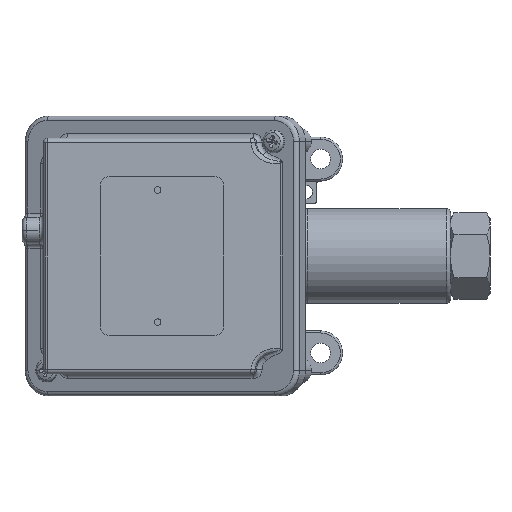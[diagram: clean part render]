
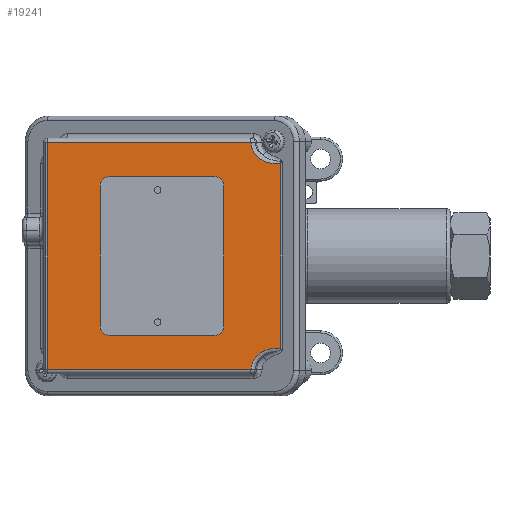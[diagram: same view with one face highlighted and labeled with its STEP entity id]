
A CAD part, left-side view. The second image highlights one B-rep face of the part: STEP entity #19241.
In plain terms, the highlighted planar face has unit normal (-1, 0.005, 0).
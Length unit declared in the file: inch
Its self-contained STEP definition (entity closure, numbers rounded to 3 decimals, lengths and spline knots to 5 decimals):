
#457 = CARTESIAN_POINT ( 'NONE',  ( -2.32276, 0.19397, 1.32146 ) ) ;
#1192 = AXIS2_PLACEMENT_3D ( 'NONE', #16506, #6571, #6963 ) ;
#1234 = VECTOR ( 'NONE', #17084, 39.37008 ) ;
#1374 = DIRECTION ( 'NONE',  ( -0.005, -1., 0. ) ) ;
#1430 = VERTEX_POINT ( 'NONE', #18806 ) ;
#1500 = PLANE ( 'NONE',  #4943 ) ;
#2020 =( BOUNDED_CURVE ( )  B_SPLINE_CURVE ( 3, ( #8943, #22600, #10478, #24140 ),
 .UNSPECIFIED., .F., .F. ) 
 B_SPLINE_CURVE_WITH_KNOTS ( ( 4, 4 ),
 ( 1.33072, 3.09357 ),
 .UNSPECIFIED. ) 
 CURVE ( )  GEOMETRIC_REPRESENTATION_ITEM ( )  RATIONAL_B_SPLINE_CURVE ( ( 1., 0.757, 0.757, 1. ) ) 
 REPRESENTATION_ITEM ( '' )  );
#2949 = ORIENTED_EDGE ( 'NONE', *, *, #15832, .F. ) ;
#3299 = FACE_OUTER_BOUND ( 'NONE', #15224, .T. ) ;
#4491 = VECTOR ( 'NONE', #5343, 39.37008 ) ;
#4833 = EDGE_CURVE ( 'NONE', #4859, #23437, #24670, .T. ) ;
#4859 = VERTEX_POINT ( 'NONE', #20941 ) ;
#4865 = CIRCLE ( 'NONE', #11856, 0.0465 ) ;
#4943 = AXIS2_PLACEMENT_3D ( 'NONE', #15040, #5473, #22861 ) ;
#5343 = DIRECTION ( 'NONE',  ( 0.005, 1., 0. ) ) ;
#5365 = CARTESIAN_POINT ( 'NONE',  ( -2.31341, 1.9849, -0.938 ) ) ;
#5473 = DIRECTION ( 'NONE',  ( 1., -0.005, 0. ) ) ;
#5591 = CARTESIAN_POINT ( 'NONE',  ( -2.32276, 0.19397, -1.32146 ) ) ;
#6278 = AXIS2_PLACEMENT_3D ( 'NONE', #20930, #19142, #1374 ) ;
#6280 = VERTEX_POINT ( 'NONE', #5365 ) ;
#6554 = ORIENTED_EDGE ( 'NONE', *, *, #20439, .T. ) ;
#6571 = DIRECTION ( 'NONE',  ( -1., 0.005, 0. ) ) ;
#6592 = EDGE_CURVE ( 'NONE', #21507, #6603, #2020, .T. ) ;
#6603 = VERTEX_POINT ( 'NONE', #22206 ) ;
#6753 = LINE ( 'NONE', #12386, #16407 ) ;
#6809 = ORIENTED_EDGE ( 'NONE', *, *, #19463, .T. ) ;
#6963 = DIRECTION ( 'NONE',  ( -0.005, -1., 0. ) ) ;
#7134 = LINE ( 'NONE', #7408, #1234 ) ;
#7287 = FACE_BOUND ( 'NONE', #18018, .T. ) ;
#7408 = CARTESIAN_POINT ( 'NONE',  ( -2.3055, 3.50088, 1.6725 ) ) ;
#7685 = CARTESIAN_POINT ( 'NONE',  ( -2.31341, 1.9849, 0.937 ) ) ;
#8662 = CARTESIAN_POINT ( 'NONE',  ( -2.3055, 3.50088, 1.61 ) ) ;
#8807 = EDGE_CURVE ( 'NONE', #1430, #6280, #11439, .T. ) ;
#8943 = CARTESIAN_POINT ( 'NONE',  ( -2.32276, 0.19397, 1.32146 ) ) ;
#9385 = EDGE_CURVE ( 'NONE', #6280, #1430, #17701, .T. ) ;
#9700 = ORIENTED_EDGE ( 'NONE', *, *, #4833, .F. ) ;
#10478 = CARTESIAN_POINT ( 'NONE',  ( -2.32063, 0.60182, 1.39798 ) ) ;
#11117 = CARTESIAN_POINT ( 'NONE',  ( -2.31365, 1.9384, 0.937 ) ) ;
#11439 = CIRCLE ( 'NONE', #1192, 0.0465 ) ;
#11555 = CARTESIAN_POINT ( 'NONE',  ( -2.32276, 0.19397, -1.32146 ) ) ;
#11856 = AXIS2_PLACEMENT_3D ( 'NONE', #13731, #21524, #25011 ) ;
#12386 = CARTESIAN_POINT ( 'NONE',  ( -2.32276, 0.19397, 1.6725 ) ) ;
#13086 = VERTEX_POINT ( 'NONE', #13258 ) ;
#13258 = CARTESIAN_POINT ( 'NONE',  ( -2.3055, 3.50088, -1.61 ) ) ;
#13456 = CARTESIAN_POINT ( 'NONE',  ( -2.32159, 0.41746, -1.27099 ) ) ;
#13543 = CARTESIAN_POINT ( 'NONE',  ( -2.32057, 0.61286, -1.61 ) ) ;
#13731 = CARTESIAN_POINT ( 'NONE',  ( -2.31365, 1.9384, 0.937 ) ) ;
#13970 = VERTEX_POINT ( 'NONE', #5591 ) ;
#14219 = ORIENTED_EDGE ( 'NONE', *, *, #9385, .F. ) ;
#14518 = ORIENTED_EDGE ( 'NONE', *, *, #16354, .T. ) ;
#14649 = VERTEX_POINT ( 'NONE', #8662 ) ;
#15040 = CARTESIAN_POINT ( 'NONE',  ( -2.32282, 0.18143, 1.6725 ) ) ;
#15091 = CARTESIAN_POINT ( 'NONE',  ( -2.32057, 0.61286, -1.61 ) ) ;
#15224 = EDGE_LOOP ( 'NONE', ( #24925, #6809, #17144, #6554, #19473, #14518 ) ) ;
#15832 = EDGE_CURVE ( 'NONE', #23437, #4859, #4865, .T. ) ;
#15980 = VECTOR ( 'NONE', #18808, 39.37008 ) ;
#16305 = DIRECTION ( 'NONE',  ( 0., 0., 1. ) ) ;
#16354 = EDGE_CURVE ( 'NONE', #6603, #14649, #20524, .T. ) ;
#16407 = VECTOR ( 'NONE', #16305, 39.37008 ) ;
#16506 = CARTESIAN_POINT ( 'NONE',  ( -2.31365, 1.9384, -0.938 ) ) ;
#16555 = CARTESIAN_POINT ( 'NONE',  ( -2.32282, 0.18143, 1.61 ) ) ;
#16702 = DIRECTION ( 'NONE',  ( -0.005, -1., 0. ) ) ;
#16808 = EDGE_CURVE ( 'NONE', #14649, #13086, #7134, .T. ) ;
#16888 = AXIS2_PLACEMENT_3D ( 'NONE', #11117, #17103, #16702 ) ;
#17084 = DIRECTION ( 'NONE',  ( 0., 0., -1. ) ) ;
#17103 = DIRECTION ( 'NONE',  ( -1., 0.005, 0. ) ) ;
#17144 = ORIENTED_EDGE ( 'NONE', *, *, #18462, .T. ) ;
#17417 = VERTEX_POINT ( 'NONE', #13543 ) ;
#17701 = CIRCLE ( 'NONE', #6278, 0.0465 ) ;
#18018 = EDGE_LOOP ( 'NONE', ( #9700, #2949 ) ) ;
#18462 = EDGE_CURVE ( 'NONE', #17417, #13970, #23301, .T. ) ;
#18683 = LINE ( 'NONE', #20350, #15980 ) ;
#18806 = CARTESIAN_POINT ( 'NONE',  ( -2.31389, 1.8919, -0.938 ) ) ;
#18808 = DIRECTION ( 'NONE',  ( -0.005, -1., 0. ) ) ;
#19142 = DIRECTION ( 'NONE',  ( -1., 0.005, 0. ) ) ;
#19241 = ADVANCED_FACE ( 'NONE', ( #7287, #20790, #3299 ), #1500, .F. ) ;
#19463 = EDGE_CURVE ( 'NONE', #13086, #17417, #18683, .T. ) ;
#19473 = ORIENTED_EDGE ( 'NONE', *, *, #6592, .T. ) ;
#20350 = CARTESIAN_POINT ( 'NONE',  ( -2.32081, 0.56672, -1.61 ) ) ;
#20439 = EDGE_CURVE ( 'NONE', #13970, #21507, #6753, .T. ) ;
#20524 = LINE ( 'NONE', #16555, #4491 ) ;
#20790 = FACE_BOUND ( 'NONE', #21022, .T. ) ;
#20930 = CARTESIAN_POINT ( 'NONE',  ( -2.31365, 1.9384, -0.938 ) ) ;
#20941 = CARTESIAN_POINT ( 'NONE',  ( -2.31389, 1.8919, 0.937 ) ) ;
#21022 = EDGE_LOOP ( 'NONE', ( #23196, #14219 ) ) ;
#21507 = VERTEX_POINT ( 'NONE', #457 ) ;
#21524 = DIRECTION ( 'NONE',  ( -1., 0.005, 0. ) ) ;
#22206 = CARTESIAN_POINT ( 'NONE',  ( -2.32057, 0.61286, 1.61 ) ) ;
#22600 = CARTESIAN_POINT ( 'NONE',  ( -2.32159, 0.41746, 1.27099 ) ) ;
#22861 = DIRECTION ( 'NONE',  ( 0.005, 1., 0. ) ) ;
#23196 = ORIENTED_EDGE ( 'NONE', *, *, #8807, .F. ) ;
#23301 =( BOUNDED_CURVE ( )  B_SPLINE_CURVE ( 3, ( #15091, #24975, #13456, #11555 ),
 .UNSPECIFIED., .F., .T. ) 
 B_SPLINE_CURVE_WITH_KNOTS ( ( 4, 4 ),
 ( 3.18961, 4.95247 ),
 .UNSPECIFIED. ) 
 CURVE ( )  GEOMETRIC_REPRESENTATION_ITEM ( )  RATIONAL_B_SPLINE_CURVE ( ( 1., 0.757, 0.757, 1. ) ) 
 REPRESENTATION_ITEM ( '' )  );
#23437 = VERTEX_POINT ( 'NONE', #7685 ) ;
#24140 = CARTESIAN_POINT ( 'NONE',  ( -2.32057, 0.61286, 1.61 ) ) ;
#24670 = CIRCLE ( 'NONE', #16888, 0.0465 ) ;
#24925 = ORIENTED_EDGE ( 'NONE', *, *, #16808, .T. ) ;
#24975 = CARTESIAN_POINT ( 'NONE',  ( -2.32063, 0.60182, -1.39798 ) ) ;
#25011 = DIRECTION ( 'NONE',  ( -0.005, -1., 0. ) ) ;
